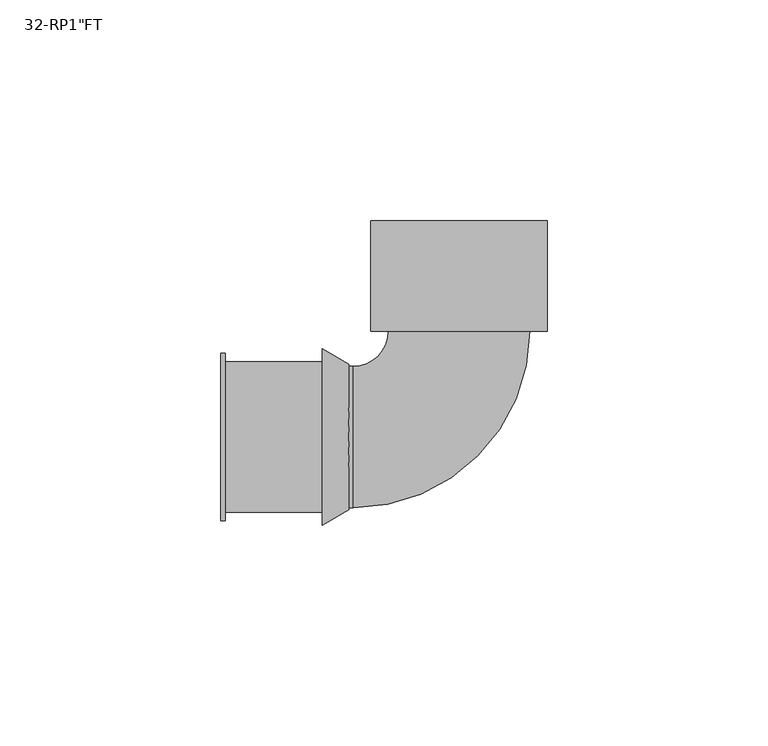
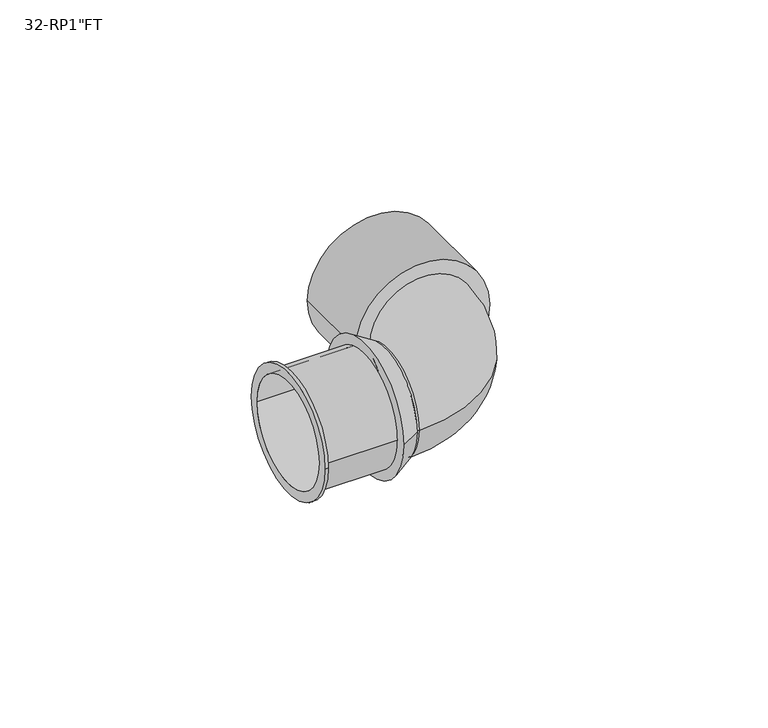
"""IFC4 building model written with IfcOpenShell, lengths in millimetres: pipe fitting geometry."""

import ifcopenshell
import ifcopenshell.guid

model = None  # the IFC model being written
_history = None  # IfcOwnerHistory: only IFC2X3 demands one
_inside = {}  # id of a spatial element -> (the spatial element, [elements in it])
_under = {}  # id of a project, library or spatial element -> (it, [spatial elements below it])
_declared = {}  # id of a project -> (the project, [libraries it declares])
_typed = {}  # id of a type object -> (the type object, [elements of that type])
_made_of = {}  # id of a material, layer set ... -> (it, [elements and type objects made of it])


def new_model(schema):
    """Start an empty IFC model of exactly this schema.

    Asked for "IFC4X3", IfcOpenShell would pick the latest addendum, in which some entities
    have other attributes; the version numbers below select the first issue.
    IFC2X3 requires an IfcOwnerHistory on every rooted entity: one is made here for all.
    """
    global model, _history
    if schema == "IFC4X3":
        model = ifcopenshell.file(schema_version=(4, 3, 0, 0))
    else:
        model = ifcopenshell.file(schema=schema)
    _inside.clear()
    _under.clear()
    _declared.clear()
    _typed.clear()
    _made_of.clear()
    _history = None
    if model.schema == "IFC2X3":
        org = make("IfcOrganization", Name="unknown")
        user = make(
            "IfcPersonAndOrganization",
            ThePerson=make("IfcPerson", FamilyName="unknown"),
            TheOrganization=org,
        )
        app = make(
            "IfcApplication",
            ApplicationDeveloper=org,
            Version="unknown",
            ApplicationFullName="unknown",
            ApplicationIdentifier="unknown",
        )
        _history = make(
            "IfcOwnerHistory",
            OwningUser=user,
            OwningApplication=app,
            ChangeAction="ADDED",
            CreationDate=0,
        )
    return model


def make(cls, **values):
    """One entity of the class cls with the attributes given. An attribute that is None is left unset."""
    return model.create_entity(
        cls, **{name: value for name, value in values.items() if value is not None}
    )


def rooted(cls, **values):
    """An entity with a GlobalId (a new one), such as an element, a storey or a relation."""
    return make(cls, GlobalId=ifcopenshell.guid.new(), OwnerHistory=_history, **values)


def si_unit(unit_type, name, prefix=None):
    """IfcSIUnit, for example si_unit("LENGTHUNIT", "METRE", prefix="MILLI")."""
    return make("IfcSIUnit", UnitType=unit_type, Prefix=prefix, Name=name)


def assignment(units):
    """IfcUnitAssignment: the units of a project."""
    return None if units is None else make("IfcUnitAssignment", Units=units)


def point(xyz):
    """IfcCartesianPoint."""
    return None if xyz is None else make("IfcCartesianPoint", Coordinates=xyz)


def direction(xyz):
    """IfcDirection."""
    return None if xyz is None else make("IfcDirection", DirectionRatios=xyz)


def frame(location, z_axis=None, x_axis=None):
    """IfcAxis2Placement3D, a coordinate frame: its origin and axes. An axis left out is left unset."""
    return make(
        "IfcAxis2Placement3D",
        Location=point(location),
        Axis=direction(z_axis),
        RefDirection=direction(x_axis),
    )


def origin():
    """The frame at (0, 0, 0) with its axes left unset."""
    return frame((0.0, 0.0, 0.0))


def place(relative_to, where):
    """IfcLocalPlacement: puts the frame where relative to a parent placement (None: the world)."""
    return make(
        "IfcLocalPlacement", PlacementRelTo=relative_to, RelativePlacement=where
    )


def context(
    kind, dimensions, precision=None, world=None, true_north=None, identifier=None
):
    """IfcGeometricRepresentationContext, for example the 3D "Model" context."""
    return make(
        "IfcGeometricRepresentationContext",
        ContextIdentifier=identifier,
        ContextType=kind,
        CoordinateSpaceDimension=dimensions,
        Precision=precision,
        WorldCoordinateSystem=world,
        TrueNorth=true_north,
    )


def project(units=None, contexts=None):
    """IfcProject with its units and contexts."""
    return rooted(
        "IfcProject",
        Name="project",
        RepresentationContexts=contexts,
        UnitsInContext=assignment(units),
    )


def spatial(cls, under=None, at=None, **own):
    """A site, building, storey or space (cls), placed at a placement, below another one or the project."""
    s = rooted(cls, ObjectPlacement=at, **own)
    if under is not None:
        _under.setdefault(under.id(), (under, []))[1].append(s)
    return s


def polyline(points):
    """IfcPolyline through the points."""
    return make("IfcPolyline", Points=[point(p) for p in points])


def circle_curve(where, radius):
    """IfcCircle in the frame where."""
    return make("IfcCircle", Position=where, Radius=radius)


def ellipse_curve(where, semi_axis1, semi_axis2):
    """IfcEllipse in the frame where."""
    return make(
        "IfcEllipse", Position=where, SemiAxis1=semi_axis1, SemiAxis2=semi_axis2
    )


def trimmed(basis, trim1, trim2, sense, master):
    """IfcTrimmedCurve: the piece of a basis curve between two trims."""
    return make(
        "IfcTrimmedCurve",
        BasisCurve=basis,
        Trim1=trim1,
        Trim2=trim2,
        SenseAgreement=sense,
        MasterRepresentation=master,
    )


def shape(context_of_items, identifier, shape_type, items):
    """IfcShapeRepresentation: the items that make up one representation, for example the "Body"."""
    return make(
        "IfcShapeRepresentation",
        ContextOfItems=context_of_items,
        RepresentationIdentifier=identifier,
        RepresentationType=shape_type,
        Items=items,
    )


def source(mapping_origin, context_of_items, identifier, shape_type, items):
    """IfcRepresentationMap: a shape defined once, which mapped items show again and again."""
    return make(
        "IfcRepresentationMap",
        MappingOrigin=mapping_origin,
        MappedRepresentation=shape(context_of_items, identifier, shape_type, items),
    )


def transform(
    local_origin,
    x_axis=None,
    y_axis=None,
    z_axis=None,
    scale=None,
    scale2=None,
    scale3=None,
    uniform=True,
):
    """IfcCartesianTransformationOperator3D, or its non-uniform kind. x_axis, y_axis, z_axis: its Axis1, 2, 3."""
    if uniform:
        return make(
            "IfcCartesianTransformationOperator3D",
            Axis1=direction(x_axis),
            Axis2=direction(y_axis),
            LocalOrigin=point(local_origin),
            Scale=scale,
            Axis3=direction(z_axis),
        )
    return make(
        "IfcCartesianTransformationOperator3DnonUniform",
        Axis1=direction(x_axis),
        Axis2=direction(y_axis),
        LocalOrigin=point(local_origin),
        Scale=scale,
        Axis3=direction(z_axis),
        Scale2=scale2,
        Scale3=scale3,
    )


def mapped(mapping_source, mapping_target):
    """IfcMappedItem: shows the shape of a source again, moved by a transform."""
    return make(
        "IfcMappedItem", MappingSource=mapping_source, MappingTarget=mapping_target
    )


def made_of(thing, what):
    """Note that an element or type object is made of a material, layer set ...; save() writes the relation."""
    if what is not None:
        _made_of.setdefault(what.id(), (what, []))[1].append(thing)
    return thing


def element(
    cls,
    number,
    at=None,
    inside=None,
    cuts=None,
    type_object=None,
    material=None,
    context=None,
    identifier="Body",
    shape_type=None,
    held_by="IfcProductDefinitionShape",
    body=None,
    shapes=None,
    **own,
):
    """One element of the class cls, such as IfcWall. Its Tag is "e" and its number.

    at: its placement. inside: the storey or other place that contains it. cuts: it is an
    opening in that element (IfcRelVoidsElement). A single representation is given by context,
    identifier, shape_type and body (its items); several are given by shapes. held_by: the class
    of the entity that holds the representations. save() writes the other relations.
    """
    e = rooted(cls, Tag="e%d" % number, ObjectPlacement=at, **own)
    if body is not None:
        shapes = [shape(context, identifier, shape_type, body)]
    if shapes is not None:
        e.Representation = make(held_by, Representations=shapes)
    if inside is not None:
        _inside.setdefault(inside.id(), (inside, []))[1].append(e)
    if cuts is not None:
        rooted(
            "IfcRelVoidsElement", RelatingBuildingElement=cuts, RelatedOpeningElement=e
        )
    if type_object is not None:
        _typed.setdefault(type_object.id(), (type_object, []))[1].append(e)
    return made_of(e, material)


def aggregate(whole, parts):
    """IfcRelAggregates: a whole, such as a stair, and the parts it consists of."""
    return rooted("IfcRelAggregates", RelatingObject=whole, RelatedObjects=parts)


def save(model, path):
    """Write the relations noted so far, then the file.

    IfcRelAggregates (storeys below a building ...), IfcRelContainedInSpatialStructure (elements
    in a storey), IfcRelDefinesByType, IfcRelAssociatesMaterial and IfcRelDeclares: one each for
    every whole, place, type object, material and project.
    """
    for whole, parts in _under.values():
        aggregate(whole, parts)
    for where, things in _inside.values():
        rooted(
            "IfcRelContainedInSpatialStructure",
            RelatedElements=things,
            RelatingStructure=where,
        )
    for kind, things in _typed.values():
        rooted("IfcRelDefinesByType", RelatedObjects=things, RelatingType=kind)
    for what, things in _made_of.values():
        rooted("IfcRelAssociatesMaterial", RelatedObjects=things, RelatingMaterial=what)
    for by, libraries in _declared.values():
        rooted("IfcRelDeclares", RelatingContext=by, RelatedDefinitions=libraries)
    model.write(path)


def plane_surface(at):
    """IfcPlane: the flat surface through the origin of the frame at, square to its z axis."""
    return make("IfcPlane", Position=at)


def cylinder_surface(at, radius):
    """IfcCylindricalSurface: all points at the distance radius from the z axis of the frame at."""
    return make("IfcCylindricalSurface", Position=at, Radius=radius)


def revolved_surface(curve, axis_point, axis_direction):
    """IfcSurfaceOfRevolution: the curve turned about the line through axis_point along axis_direction."""
    return make(
        "IfcSurfaceOfRevolution",
        SweptCurve=make("IfcArbitraryOpenProfileDef", ProfileType="CURVE", Curve=curve),
        AxisPosition=make("IfcAxis1Placement", Location=point(axis_point), Axis=direction(axis_direction)),
    )


def advanced_brep(points, edges, surfaces, faces):
    """IfcAdvancedBrep: a solid bounded by faces that lie on surfaces and meet in shared edges.

    An edge is (start, end): straight between two places in points (the first is 0);
    or (start, end, curve); or (start, end, curve, False) where it runs against its curve.
    A face is (place in surfaces, loops), or (place, loops, False) where it looks against
    its surface's normal. A loop lists edges by number (the first is 1), with a minus sign
    where the edge is run from its end to its start. The first loop is the outer one.
    """
    corners = [point(p) for p in points]
    vertices = [make("IfcVertexPoint", VertexGeometry=c) for c in corners]
    made = []
    for start, end, *more in edges:
        made.append(
            make(
                "IfcEdgeCurve",
                EdgeStart=vertices[start],
                EdgeEnd=vertices[end],
                EdgeGeometry=more[0] if more else make("IfcPolyline", Points=[corners[start], corners[end]]),
                SameSense=more[1] if len(more) > 1 else True,
            )
        )
    hull = []
    for where, loops, *sense in faces:
        bounds = []
        for j, loop in enumerate(loops):
            ring = [make("IfcOrientedEdge", EdgeElement=made[abs(k) - 1], Orientation=k > 0) for k in loop]
            bounds.append(
                make(
                    "IfcFaceOuterBound" if j == 0 else "IfcFaceBound",
                    Bound=make("IfcEdgeLoop", EdgeList=ring),
                    Orientation=True,
                )
            )
        hull.append(make("IfcAdvancedFace", Bounds=bounds, FaceSurface=surfaces[where], SameSense=sense[0] if sense else True))
    return make("IfcAdvancedBrep", Outer=make("IfcClosedShell", CfsFaces=hull))


def pipe_fitting_1846f7b8(model_context):
    return source(origin(), model_context, "Body", "AdvancedBrep", [
        advanced_brep(
        [(-20.0, 49.0, 0.0), (20.0, 49.0, 0.0), (-15.0, 49.0, 0.0), (15.0, 49.0, 0.0), (-20.0, 24.0, 0.0), (20.0, 24.0, 0.0), (-15.0, 25.0, 0.0), (15.0, 25.0, 0.0)],
        [
            (0, 1, circle_curve(frame((0.0, 49.0, 0.0), z_axis=(0.0, 1.0, 0.0), x_axis=(1.0, 0.0, 0.0)), 20.0)),
            (1, 0, circle_curve(frame((0.0, 49.0, 0.0), z_axis=(0.0, 1.0, 0.0), x_axis=(1.0, 0.0, 0.0)), 20.0)),
            (2, 3, circle_curve(frame((0.0, 49.0, 0.0), z_axis=(0.0, -1.0, 0.0), x_axis=(1.0, 0.0, 0.0)), 15.0)),
            (3, 2, circle_curve(frame((0.0, 49.0, 0.0), z_axis=(0.0, -1.0, 0.0), x_axis=(1.0, 0.0, 0.0)), 15.0)),
            (4, 5, circle_curve(frame((0.0, 24.0, 0.0), z_axis=(0.0, -1.0, 0.0), x_axis=(1.0, 0.0, 0.0)), 20.0)),
            (5, 4, circle_curve(frame((0.0, 24.0, 0.0), z_axis=(0.0, -1.0, 0.0), x_axis=(1.0, 0.0, 0.0)), 20.0)),
            (1, 5),
            (4, 0),
            (2, 6),
            (6, 7, circle_curve(frame((0.0, 25.0, 0.0), z_axis=(0.0, -1.0, 0.0), x_axis=(1.0, 0.0, 0.0)), 15.0)),
            (7, 3),
            (7, 6, circle_curve(frame((0.0, 25.0, 0.0), z_axis=(0.0, -1.0, 0.0), x_axis=(1.0, 0.0, 0.0)), 15.0)),
        ],
        [
            plane_surface(frame((0.0, 49.0, 0.0), z_axis=(0.0, 1.0, 0.0), x_axis=(0.0, 0.0, 1.0))),
            plane_surface(frame((0.0, 24.0, 0.0), z_axis=(0.0, -1.0, 0.0), x_axis=(0.0, 0.0, 1.0))),
            cylinder_surface(frame((0.0, 49.0, 0.0), z_axis=(0.0, 1.0, 0.0), x_axis=(1.0, 0.0, 0.0)), 20.0),
            revolved_surface(polyline([(15.0, 25.0, 0.0), (15.0, 49.0, 0.0)]), (0.0, 49.0, 0.0), (0.0, -1.0, 0.0)),
            plane_surface(frame((0.0, 25.0, 0.0), z_axis=(0.0, 1.0, 0.0), x_axis=(0.0, 0.0, 1.0))),
        ],
        [
            (0, [[1, 2], [3, 4]]),
            (1, [[5, 6]]),
            (2, [[-2, 7, -5, 8]]),
            (2, [[-1, -8, -6, -7]]),
            (3, [[-3, 9, 10, 11]]),
            (3, [[-4, -11, 12, -9]]),
            (4, [[-10, -12]]),
        ],
    ),
        advanced_brep(
        [(16.0, 24.0, 0.0), (-16.0, 24.0, 0.0), (-24.0, 16.0, 0.0), (-24.0, -16.0, 0.0), (-25.0, -16.0, 0.0), (-25.0, 16.0, 0.0)],
        [
            (0, 1, circle_curve(frame((0.0, 24.0, 0.0), z_axis=(0.0, 1.0, 0.0), x_axis=(-1.0, 0.0, 0.0)), 16.0)),
            (1, 0, circle_curve(frame((0.0, 24.0, 0.0), z_axis=(0.0, 1.0, 0.0), x_axis=(-1.0, 0.0, 0.0)), 16.0)),
            (1, 2, circle_curve(frame((-24.0, 24.0, 0.0), z_axis=(0.0, 0.0, -1.0), x_axis=(0.0, -1.0, 0.0)), 8.0)),
            (2, 3, circle_curve(frame((-24.0, 0.0, 0.0), z_axis=(1.0, 0.0, 0.0), x_axis=(0.0, 1.0, 0.0)), 16.0)),
            (3, 0, circle_curve(frame((-24.0, 24.0, 0.0), z_axis=(0.0, 0.0, 1.0), x_axis=(0.0, -1.0, 0.0)), 40.0)),
            (3, 2, circle_curve(frame((-24.0, 0.0, 0.0), z_axis=(1.0, 0.0, 0.0), x_axis=(0.0, 1.0, 0.0)), 16.0)),
            (4, 5, circle_curve(frame((-25.0, 0.0, 0.0), z_axis=(-1.0, 0.0, 0.0), x_axis=(0.0, 1.0, 0.0)), 16.0)),
            (5, 4, circle_curve(frame((-25.0, 0.0, 0.0), z_axis=(-1.0, 0.0, 0.0), x_axis=(0.0, 1.0, 0.0)), 16.0)),
            (4, 3),
            (2, 5),
        ],
        [
            plane_surface(frame((0.0, 24.0, 0.0), z_axis=(0.0, 1.0, 0.0), x_axis=(0.0, 0.0, 1.0))),
            revolved_surface(trimmed(ellipse_curve(frame((-24.0, 0.0, 0.0), z_axis=(-1.0, 0.0, 0.0), x_axis=(0.0, 1.0, 0.0)), 16.0, 16.0), [point((-24.0, -16.0, 0.0))], [point((-24.0, 16.0, 0.0))], True, "CARTESIAN"), (-24.0, 24.0, 0.0), (0.0, 0.0, 1.0)),
            revolved_surface(trimmed(ellipse_curve(frame((-24.0, 0.0, 0.0), z_axis=(-1.0, 0.0, 0.0), x_axis=(0.0, 1.0, 0.0)), 16.0, 16.0), [point((-24.0, 16.0, 0.0))], [point((-24.0, -16.0, 0.0))], True, "CARTESIAN"), (-24.0, 24.0, 0.0), (0.0, 0.0, 1.0)),
            plane_surface(frame((-25.0, 0.0, 0.0), z_axis=(-1.0, 0.0, 0.0), x_axis=(0.0, 0.0, 1.0))),
            cylinder_surface(frame((-25.0, 0.0, 0.0), z_axis=(-1.0, 0.0, 0.0), x_axis=(0.0, 1.0, 0.0)), 16.0),
        ],
        [
            (0, [[1, 2]]),
            (1, [[-2, 3, 4, 5]]),
            (2, [[-1, -5, 6, -3]]),
            (3, [[7, 8]]),
            (4, [[-7, 9, -4, 10]]),
            (4, [[-8, -10, -6, -9]]),
        ],
    ),
        advanced_brep(
        [(-25.0, -16.5, 0.0), (-25.0, 16.5, 0.0), (-25.0, 16.0, 0.0), (-25.0, -16.0, 0.0), (-31.0, -20.0, 0.0), (-31.0, 20.0, 0.0), (-31.0, -16.0, 0.0), (-31.0, 16.0, 0.0)],
        [
            (0, 1, circle_curve(frame((-25.0, 0.0, 0.0), z_axis=(1.0, 0.0, 0.0), x_axis=(0.0, -1.0, 0.0)), 16.5)),
            (1, 0, circle_curve(frame((-25.0, 0.0, 0.0), z_axis=(1.0, 0.0, 0.0), x_axis=(0.0, 1.0, 0.0)), 16.5)),
            (2, 3, circle_curve(frame((-25.0, 0.0, 0.0), z_axis=(-1.0, 0.0, 0.0), x_axis=(0.0, 1.0, 0.0)), 16.0)),
            (3, 2, circle_curve(frame((-25.0, 0.0, 0.0), z_axis=(-1.0, 0.0, 0.0), x_axis=(0.0, 1.0, 0.0)), 16.0)),
            (4, 5, circle_curve(frame((-31.0, 0.0, 0.0), z_axis=(-1.0, 0.0, 0.0), x_axis=(0.0, 1.0, 0.0)), 20.0)),
            (5, 4, circle_curve(frame((-31.0, 0.0, 0.0), z_axis=(-1.0, 0.0, 0.0), x_axis=(0.0, -1.0, 0.0)), 20.0)),
            (6, 7, circle_curve(frame((-31.0, 0.0, 0.0), z_axis=(1.0, 0.0, 0.0), x_axis=(0.0, 1.0, 0.0)), 16.0)),
            (7, 6, circle_curve(frame((-31.0, 0.0, 0.0), z_axis=(1.0, 0.0, 0.0), x_axis=(0.0, 1.0, 0.0)), 16.0)),
            (0, 4),
            (5, 1),
            (2, 7),
            (6, 3),
        ],
        [
            plane_surface(frame((-25.0, 0.0, 0.0), z_axis=(1.0, 0.0, 0.0), x_axis=(0.0, 0.0, -1.0))),
            plane_surface(frame((-31.0, 0.0, 0.0), z_axis=(-1.0, 0.0, 0.0), x_axis=(0.0, 0.0, -1.0))),
            revolved_surface(polyline([(-25.000000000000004, -16.500000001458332, 0.0), (-31.000000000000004, -20.0, 0.0)]), (3.2857143, 0.0, 0.0), (-1.0, 0.0, 0.0)),
            revolved_surface(polyline([(-25.000000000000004, 16.500000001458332, 0.0), (-31.000000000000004, 20.0, 0.0)]), (3.2857143, 0.0, 0.0), (-1.0, 0.0, 0.0)),
            revolved_surface(polyline([(-25.0, 16.0, 0.0), (-31.0, 16.0, 0.0)]), (-31.0, 0.0, 0.0), (1.0, 0.0, 0.0)),
        ],
        [
            (0, [[1, 2], [3, 4]]),
            (1, [[5, 6], [7, 8]]),
            (2, [[-1, 9, -6, 10]]),
            (3, [[-2, -10, -5, -9]]),
            (4, [[11, -7, 12, -3]]),
            (4, [[-11, -4, -12, -8]]),
        ],
    ),
        advanced_brep(
        [(-54.0, -19.0, 0.0), (-54.0, 19.0, 0.0), (-54.0, -16.0, 0.0), (-54.0, 16.0, 0.0), (-31.0, -17.0, 0.0), (-31.0, 17.0, 0.0), (-31.0, -16.0, 0.0), (-31.0, 16.0, 0.0), (-53.0, 17.0, 0.0), (-53.0, -17.0, 0.0), (-53.0, -19.0, 0.0), (-53.0, 19.0, 0.0)],
        [
            (0, 1, circle_curve(frame((-54.0, 0.0, 0.0), z_axis=(-1.0, 0.0, 0.0), x_axis=(0.0, 1.0, 0.0)), 19.0)),
            (1, 0, circle_curve(frame((-54.0, 0.0, 0.0), z_axis=(-1.0, 0.0, 0.0), x_axis=(0.0, 1.0, 0.0)), 19.0)),
            (2, 3, circle_curve(frame((-54.0, 0.0, 0.0), z_axis=(1.0, 0.0, 0.0), x_axis=(0.0, 1.0, 0.0)), 16.0)),
            (3, 2, circle_curve(frame((-54.0, 0.0, 0.0), z_axis=(1.0, 0.0, 0.0), x_axis=(0.0, 1.0, 0.0)), 16.0)),
            (4, 5, circle_curve(frame((-31.0, 0.0, 0.0), z_axis=(1.0, 0.0, 0.0), x_axis=(0.0, 1.0, 0.0)), 17.0)),
            (5, 4, circle_curve(frame((-31.0, 0.0, 0.0), z_axis=(1.0, 0.0, 0.0), x_axis=(0.0, 1.0, 0.0)), 17.0)),
            (6, 7, circle_curve(frame((-31.0, 0.0, 0.0), z_axis=(-1.0, 0.0, 0.0), x_axis=(0.0, 1.0, 0.0)), 16.0)),
            (7, 6, circle_curve(frame((-31.0, 0.0, 0.0), z_axis=(-1.0, 0.0, 0.0), x_axis=(0.0, 1.0, 0.0)), 16.0)),
            (2, 6),
            (7, 3),
            (5, 8),
            (8, 9, circle_curve(frame((-53.0, 0.0, 0.0), z_axis=(1.0, 0.0, 0.0), x_axis=(0.0, 1.0, 0.0)), 17.0)),
            (9, 4),
            (9, 8, circle_curve(frame((-53.0, 0.0, 0.0), z_axis=(1.0, 0.0, 0.0), x_axis=(0.0, 1.0, 0.0)), 17.0)),
            (10, 11, circle_curve(frame((-53.0, 0.0, 0.0), z_axis=(1.0, 0.0, 0.0), x_axis=(0.0, 1.0, 0.0)), 19.0)),
            (11, 10, circle_curve(frame((-53.0, 0.0, 0.0), z_axis=(1.0, 0.0, 0.0), x_axis=(0.0, 1.0, 0.0)), 19.0)),
            (0, 10),
            (11, 1),
        ],
        [
            plane_surface(frame((-54.0, 0.0, 0.0), z_axis=(-1.0, 0.0, 0.0), x_axis=(0.0, 0.0, 1.0))),
            plane_surface(frame((-31.0, 0.0, 0.0), z_axis=(1.0, 0.0, 0.0), x_axis=(0.0, 0.0, 1.0))),
            revolved_surface(polyline([(-31.0, 16.0, 0.0), (-54.0, 16.0, 0.0)]), (-54.0, 0.0, 0.0), (1.0, 0.0, 0.0)),
            cylinder_surface(frame((-54.0, 0.0, 0.0), z_axis=(-1.0, 0.0, 0.0), x_axis=(0.0, 1.0, 0.0)), 17.0),
            plane_surface(frame((-53.0, 0.0, 0.0), z_axis=(1.0, 0.0, 0.0), x_axis=(0.0, 0.0, 1.0))),
            cylinder_surface(frame((-54.0, 0.0, 0.0), z_axis=(-1.0, 0.0, 0.0), x_axis=(0.0, 1.0, 0.0)), 19.0),
        ],
        [
            (0, [[1, 2], [3, 4]]),
            (1, [[5, 6], [7, 8]]),
            (2, [[-3, 9, -8, 10]]),
            (2, [[-4, -10, -7, -9]]),
            (3, [[-6, 11, 12, 13]]),
            (3, [[-5, -13, 14, -11]]),
            (4, [[15, 16], [-12, -14]]),
            (5, [[-1, 17, -16, 18]]),
            (5, [[-2, -18, -15, -17]]),
        ],
    ),
    ])


if __name__ == "__main__":
    model = new_model("IFC4")
    model_context = context("Model", 3, world=origin())
    ifc_project = project(units=[si_unit("LENGTHUNIT", "METRE", prefix="MILLI")], contexts=[model_context])
    site = spatial("IfcSite", under=ifc_project)
    building = spatial("IfcBuilding", under=site)
    placement = place(None, origin())
    pipe_fitting_shape = pipe_fitting_1846f7b8(model_context)
    element("IfcPipeFitting", 1, ObjectType="SuperPipe_ElbowAdapterFT_MAX_RP : 32-RP1\"FT", at=placement, inside=building, context=model_context, shape_type="MappedRepresentation", body=[
        mapped(pipe_fitting_shape, transform((0.0, 0.0, 0.0), x_axis=(1.0, 0.0, 0.0), y_axis=(0.0, 1.0, 0.0), z_axis=(0.0, 0.0, 1.0))),
    ])
    save(model, "model.ifc")
